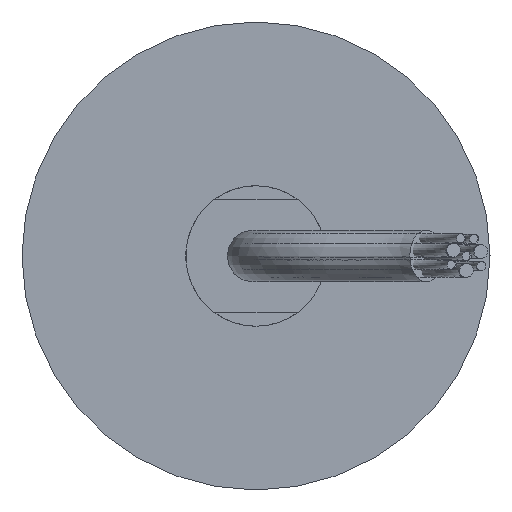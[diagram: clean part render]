
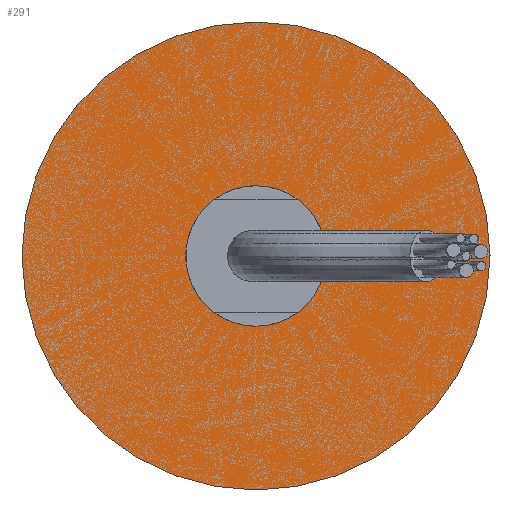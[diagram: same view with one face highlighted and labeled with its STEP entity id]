
A CAD part, left-side view. The second image highlights one B-rep face of the part: STEP entity #291.
In plain terms, the highlighted planar face has unit normal (-1, 0, 0).
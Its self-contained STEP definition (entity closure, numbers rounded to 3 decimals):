
#220=PLANE('',#696);
#291=ADVANCED_FACE('',(#378,#379),#220,.F.);
#378=FACE_BOUND('',#409,.T.);
#379=FACE_BOUND('',#410,.T.);
#409=EDGE_LOOP('',(#480));
#410=EDGE_LOOP('',(#481));
#480=ORIENTED_EDGE('',*,*,#610,.F.);
#481=ORIENTED_EDGE('',*,*,#620,.F.);
#568=VERTEX_POINT('',#901);
#578=VERTEX_POINT('',#922);
#610=EDGE_CURVE('',#568,#568,#660,.T.);
#620=EDGE_CURVE('',#578,#578,#666,.T.);
#660=CIRCLE('',#686,7.5);
#666=CIRCLE('',#693,25.);
#686=AXIS2_PLACEMENT_3D('',#900,#753,#754);
#693=AXIS2_PLACEMENT_3D('',#921,#771,#772);
#696=AXIS2_PLACEMENT_3D('',#925,#777,#778);
#753=DIRECTION('',(-1.,0.,0.));
#754=DIRECTION('',(0.,1.,0.));
#771=DIRECTION('',(1.,0.,0.));
#772=DIRECTION('',(0.,1.,0.));
#777=DIRECTION('',(1.,0.,0.));
#778=DIRECTION('',(0.,0.,-1.));
#900=CARTESIAN_POINT('',(0.,0.,0.));
#901=CARTESIAN_POINT('',(0.,7.5,0.));
#921=CARTESIAN_POINT('',(0.,0.,0.));
#922=CARTESIAN_POINT('',(0.,25.,0.));
#925=CARTESIAN_POINT('',(0.,0.,0.));
